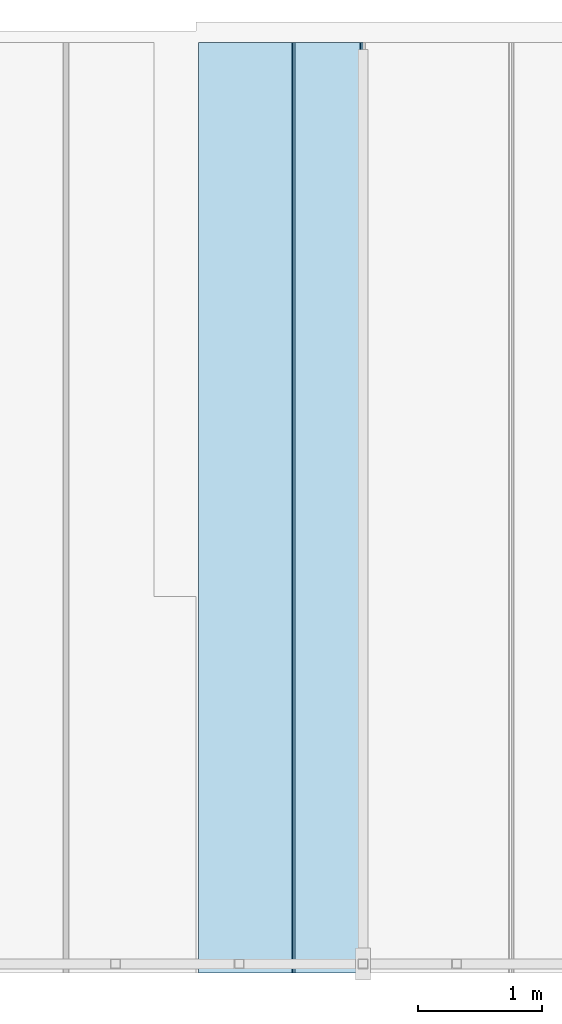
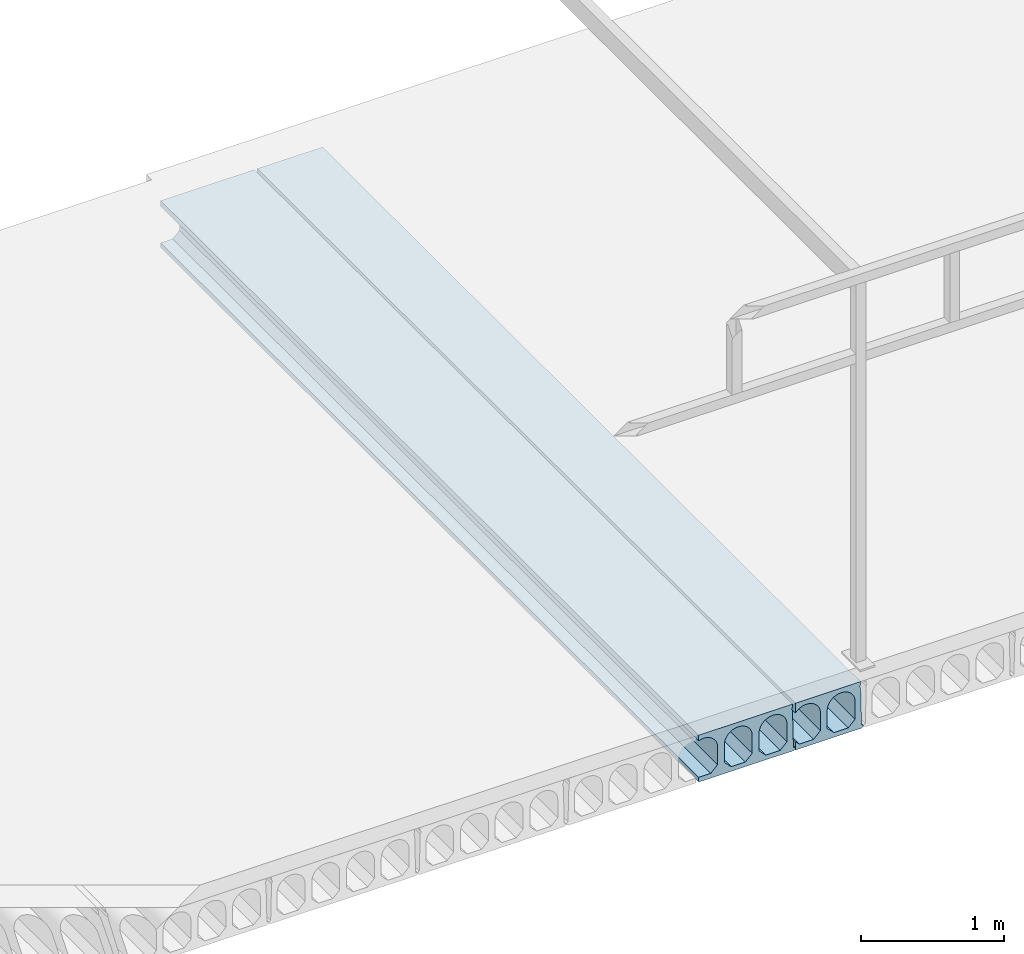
# One storey, part 15 of 20: 2 slabs.
"""IFC2X3 building model written with IfcOpenShell, lengths in millimetres."""

from ifc_helpers import new_model, entity, si_unit, converted_unit, derived_unit, direction, frame, origin_with_axes, place, context, subcontext, project, spatial, faceted_brep, type_object, element, save


model = new_model("IFC2X3")

# Units and contexts
model_context = context("Model", 3, precision=0.01, world=frame((0.0, 4.29681676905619e-09, 0.0)), true_north=direction((4.01073788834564e-13, 1.0)))
plan_context = context("Plan", 3, precision=0.01, world=frame((0.0, 4.29681676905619e-09, 0.0)), true_north=direction((4.01073788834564e-13, 1.0)))
body_context = subcontext(model_context, "Body", "Model", "MODEL_VIEW")
ifc_project = project(units=[converted_unit("PLANEANGLEUNIT", "DEGREE", entity("IfcPositiveLengthMeasure", 0.0174532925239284), si_unit("PLANEANGLEUNIT", "RADIAN"), dimensions=[0, 0, 0, 0, 0, 0, 0]), si_unit("AREAUNIT", "SQUARE_METRE"), si_unit("LENGTHUNIT", "METRE", prefix="MILLI"), si_unit("MASSUNIT", "GRAM", prefix="KILO"), si_unit("POWERUNIT", "WATT"), si_unit("PRESSUREUNIT", "PASCAL", prefix="KILO"), si_unit("FORCEUNIT", "NEWTON", prefix="KILO"), si_unit("ELECTRICVOLTAGEUNIT", "VOLT"), si_unit("ELECTRICCURRENTUNIT", "AMPERE"), si_unit("THERMODYNAMICTEMPERATUREUNIT", "DEGREE_CELSIUS"), si_unit("TIMEUNIT", "SECOND"), si_unit("VOLUMEUNIT", "CUBIC_METRE"), derived_unit("LINEARVELOCITYUNIT", [(si_unit("LENGTHUNIT", "METRE"), 1), (si_unit("TIMEUNIT", "SECOND"), -1)]), derived_unit("VOLUMETRICFLOWRATEUNIT", [(si_unit("VOLUMEUNIT", "CUBIC_METRE"), 1), (si_unit("TIMEUNIT", "SECOND"), -1)]), derived_unit("THERMALTRANSMITTANCEUNIT", [(si_unit("POWERUNIT", "WATT"), 1), (si_unit("THERMODYNAMICTEMPERATUREUNIT", "KELVIN"), -1), (si_unit("AREAUNIT", "SQUARE_METRE"), -1)]), derived_unit("SOUNDPRESSUREUNIT", [(si_unit("PRESSUREUNIT", "PASCAL"), 1)])], contexts=[model_context, plan_context])

# Site, building, storey
site_placement = place(None, frame((0.0, -4.29681676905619e-09, 0.0), z_axis=(0.0, 0.0, 1.0), x_axis=(1.0, 0.0, 0.0)))
site = spatial("IfcSite", under=ifc_project, at=site_placement, Name="Gardermoen", CompositionType="ELEMENT")
building_placement = place(site_placement, frame((0.0, 4.29681676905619e-09, 0.0), z_axis=(0.0, 0.0, 1.0), x_axis=(1.0, 0.0, 0.0)))
building = spatial("IfcBuilding", under=site, at=building_placement, Name="TS", CompositionType="ELEMENT")
storey_placement = place(building_placement, origin_with_axes())
storey = spatial("IfcBuildingStorey", under=building, at=storey_placement, Name="D", CompositionType="ELEMENT", Elevation=0.0)

# Slabs
slab_type = type_object("IfcSlabType", Name="HD400", PredefinedType="NOTDEFINED")
slab_1_placement = place(storey_placement, frame((605849.980234, 405259.995625, 203600.0), z_axis=(0.0, 0.0, 1.0), x_axis=(0.0, -1.0, 0.0)))
element("IfcSlab", 1, at=slab_1_placement, inside=storey, type_object=slab_type, Name="HULLDEKKE", ObjectType="HD400", PredefinedType="FLOOR", context=body_context, shape_type="Brep", body=[
    faceted_brep([(7523.49562487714, -180.003582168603, 152.548532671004), (7523.49562487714, -176.528690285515, 153.904439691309), (0.0, -176.528690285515, 153.904439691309), (0.0, -180.003582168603, 152.548532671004), (7523.49562487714, -167.617117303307, 156.55752991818), (0.0, -167.617117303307, 156.55752991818), (7523.49562487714, -158.516891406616, 158.465646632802), (0.0, -158.516891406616, 158.465646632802), (7523.49562487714, -149.290176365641, 159.615755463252), (0.0, -149.290176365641, 159.615755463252), (7523.49562487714, -140.0, 160.0), (0.0, -140.0, 160.0), (7523.49562487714, -130.709823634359, 159.615755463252), (0.0, -130.709823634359, 159.615755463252), (7523.49562487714, -121.483108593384, 158.465646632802), (0.0, -121.483108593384, 158.465646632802), (7523.49562487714, -112.382882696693, 156.55752991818), (0.0, -112.382882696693, 156.55752991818), (7523.49562487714, -103.471309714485, 153.904439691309), (0.0, -103.471309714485, 153.904439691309), (7523.49562487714, -94.8092647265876, 150.524499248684), (0.0, -94.8092647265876, 150.524499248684), (7523.49562487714, -86.4559182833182, 146.440797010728), (0.0, -86.4559182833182, 146.440797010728), (7523.49562487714, -78.4683322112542, 141.681228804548), (0.0, -78.4683322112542, 141.681228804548), (7523.49562487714, -70.9010698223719, 136.278307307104), (0.0, -70.9010698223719, 136.278307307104), (7523.49562487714, -63.8058231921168, 130.268939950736), (0.0, -63.8058231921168, 130.268939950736), (7523.49562487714, -57.2310600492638, 123.694176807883), (0.0, -57.2310600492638, 123.694176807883), (7523.49562487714, -51.2216926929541, 116.598930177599), (0.0, -51.2216926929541, 116.598930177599), (7523.49562487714, -45.8187711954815, 109.031667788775), (0.0, -45.8187711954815, 109.031667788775), (7523.49562487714, -41.0592029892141, 101.044081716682), (0.0, -41.0592029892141, 101.044081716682), (7523.49562487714, -36.9755007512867, 92.6907352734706), (0.0, -36.9755007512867, 92.6907352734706), (7523.49562487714, -33.5955603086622, 84.028690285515), (0.0, -33.5955603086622, 84.028690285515), (7523.49562487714, -30.942470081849, 75.1171173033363), (0.0, -30.942470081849, 75.1171173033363), (7523.49562487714, -29.0343533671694, 66.0168914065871), (0.0, -29.0343533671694, 66.0168914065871), (7523.49562487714, -27.8842445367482, 56.7901763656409), (0.0, -27.8842445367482, 56.7901763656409), (7523.49562487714, -27.5, 47.5), (0.0, -27.5, 47.5), (7523.49562487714, -27.5, -105.0), (0.0, -27.5, -105.0), (7523.49562487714, -82.5, -160.0), (0.0, -82.5, -160.0), (7523.49562487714, -180.003582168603, -160.0), (0.0, -180.003582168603, -160.0), (7523.49562487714, -180.003582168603, -200.0), (0.0, -180.003582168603, -200.0), (7523.49562487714, 583.380004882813, -200.0), (0.0, 583.380004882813, -200.0), (7523.49562487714, 600.0, -190.0), (0.0, 600.0, -190.0), (7523.49562487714, 600.0, -180.0), (0.0, 600.0, -180.0), (7523.49562487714, 585.0, -170.0), (0.0, 585.0, -170.0), (7523.49562487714, 577.5, 145.0), (0.0, 577.5, 145.0), (7523.49562487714, 570.0, 160.0), (0.0, 570.0, 160.0), (7523.49562487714, 577.5, 175.0), (0.0, 577.5, 175.0), (7523.49562487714, 577.5, 200.0), (0.0, 577.5, 200.0), (7523.49562487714, 82.5, -160.0), (7523.49562487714, 27.5, -105.0), (0.0, 27.5, -105.0), (0.0, 82.5, -160.0), (7523.49562487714, 27.5, 47.5), (0.0, 27.5, 47.5), (7523.49562487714, 27.8842445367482, 56.7901763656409), (0.0, 27.8842445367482, 56.7901763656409), (7523.49562487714, 29.0343533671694, 66.0168914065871), (0.0, 29.0343533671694, 66.0168914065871), (7523.49562487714, 30.942470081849, 75.1171173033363), (0.0, 30.942470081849, 75.1171173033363), (7523.49562487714, 33.5955603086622, 84.028690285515), (0.0, 33.5955603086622, 84.028690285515), (7523.49562487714, 36.9755007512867, 92.6907352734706), (0.0, 36.9755007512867, 92.6907352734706), (7523.49562487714, 41.0592029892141, 101.044081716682), (0.0, 41.0592029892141, 101.044081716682), (7523.49562487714, 45.8187711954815, 109.031667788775), (0.0, 45.8187711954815, 109.031667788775), (7523.49562487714, 51.2216926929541, 116.598930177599), (0.0, 51.2216926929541, 116.598930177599), (7523.49562487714, 57.2310600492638, 123.694176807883), (0.0, 57.2310600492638, 123.694176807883), (7523.49562487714, 63.8058231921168, 130.268939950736), (0.0, 63.8058231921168, 130.268939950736), (7523.49562487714, 70.9010698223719, 136.278307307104), (0.0, 70.9010698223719, 136.278307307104), (7523.49562487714, 78.4683322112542, 141.681228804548), (0.0, 78.4683322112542, 141.681228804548), (7523.49562487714, 86.4559182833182, 146.440797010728), (0.0, 86.4559182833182, 146.440797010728), (7523.49562487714, 94.8092647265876, 150.524499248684), (0.0, 94.8092647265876, 150.524499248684), (7523.49562487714, 103.471309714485, 153.904439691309), (0.0, 103.471309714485, 153.904439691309), (7523.49562487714, 112.382882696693, 156.55752991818), (0.0, 112.382882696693, 156.55752991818), (7523.49562487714, 121.483108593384, 158.465646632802), (0.0, 121.483108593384, 158.465646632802), (7523.49562487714, 130.709823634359, 159.615755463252), (0.0, 130.709823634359, 159.615755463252), (7523.49562487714, 140.0, 160.0), (0.0, 140.0, 160.0), (7523.49562487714, 149.290176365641, 159.615755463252), (0.0, 149.290176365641, 159.615755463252), (7523.49562487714, 158.516891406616, 158.465646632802), (0.0, 158.516891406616, 158.465646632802), (7523.49562487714, 167.617117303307, 156.55752991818), (0.0, 167.617117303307, 156.55752991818), (7523.49562487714, 176.528690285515, 153.904439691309), (0.0, 176.528690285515, 153.904439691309), (7523.49562487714, 185.190735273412, 150.524499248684), (0.0, 185.190735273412, 150.524499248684), (7523.49562487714, 193.544081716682, 146.440797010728), (0.0, 193.544081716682, 146.440797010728), (7523.49562487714, 201.531667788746, 141.681228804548), (0.0, 201.531667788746, 141.681228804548), (7523.49562487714, 209.098930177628, 136.278307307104), (0.0, 209.098930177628, 136.278307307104), (7523.49562487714, 216.194176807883, 130.268939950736), (0.0, 216.194176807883, 130.268939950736), (7523.49562487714, 222.768939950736, 123.694176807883), (0.0, 222.768939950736, 123.694176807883), (7523.49562487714, 228.778307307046, 116.598930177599), (0.0, 228.778307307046, 116.598930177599), (7523.49562487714, 234.181228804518, 109.031667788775), (0.0, 234.181228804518, 109.031667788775), (7523.49562487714, 238.940797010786, 101.044081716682), (0.0, 238.940797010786, 101.044081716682), (7523.49562487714, 243.024499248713, 92.6907352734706), (0.0, 243.024499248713, 92.6907352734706), (7523.49562487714, 246.404439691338, 84.028690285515), (0.0, 246.404439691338, 84.028690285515), (7523.49562487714, 249.057529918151, 75.1171173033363), (0.0, 249.057529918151, 75.1171173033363), (7523.49562487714, 250.965646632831, 66.0168914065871), (0.0, 250.965646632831, 66.0168914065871), (7523.49562487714, 252.115755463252, 56.7901763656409), (0.0, 252.115755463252, 56.7901763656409), (7523.49562487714, 252.5, 47.5), (0.0, 252.5, 47.5), (7523.49562487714, 252.5, -105.0), (0.0, 252.5, -105.0), (7523.49562487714, 197.5, -160.0), (0.0, 197.5, -160.0), (7523.49562487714, 532.5, -105.0), (7523.49562487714, 477.5, -160.0), (0.0, 477.5, -160.0), (0.0, 532.5, -105.0), (7523.49562487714, 532.5, 47.5), (0.0, 532.5, 47.5), (7523.49562487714, 532.115755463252, 56.7901763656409), (0.0, 532.115755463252, 56.7901763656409), (7523.49562487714, 530.965646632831, 66.0168914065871), (0.0, 530.965646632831, 66.0168914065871), (7523.49562487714, 529.057529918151, 75.1171173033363), (0.0, 529.057529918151, 75.1171173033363), (7523.49562487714, 526.404439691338, 84.028690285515), (0.0, 526.404439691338, 84.028690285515), (7523.49562487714, 523.024499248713, 92.6907352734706), (0.0, 523.024499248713, 92.6907352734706), (7523.49562487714, 518.940797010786, 101.044081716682), (0.0, 518.940797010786, 101.044081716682), (7523.49562487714, 514.181228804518, 109.031667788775), (0.0, 514.181228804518, 109.031667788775), (7523.49562487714, 508.778307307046, 116.598930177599), (0.0, 508.778307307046, 116.598930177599), (7523.49562487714, 502.768939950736, 123.694176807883), (0.0, 502.768939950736, 123.694176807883), (7523.49562487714, 496.194176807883, 130.268939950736), (0.0, 496.194176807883, 130.268939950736), (7523.49562487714, 489.098930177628, 136.278307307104), (0.0, 489.098930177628, 136.278307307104), (7523.49562487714, 481.531667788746, 141.681228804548), (0.0, 481.531667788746, 141.681228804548), (7523.49562487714, 473.544081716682, 146.440797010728), (0.0, 473.544081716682, 146.440797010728), (7523.49562487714, 465.190735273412, 150.524499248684), (0.0, 465.190735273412, 150.524499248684), (7523.49562487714, 456.528690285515, 153.904439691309), (0.0, 456.528690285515, 153.904439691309), (7523.49562487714, 447.617117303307, 156.55752991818), (0.0, 447.617117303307, 156.55752991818), (7523.49562487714, 438.516891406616, 158.465646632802), (0.0, 438.516891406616, 158.465646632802), (7523.49562487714, 429.290176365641, 159.615755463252), (0.0, 429.290176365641, 159.615755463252), (7523.49562487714, 420.0, 160.0), (0.0, 420.0, 160.0), (7523.49562487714, 410.709823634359, 159.615755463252), (0.0, 410.709823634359, 159.615755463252), (7523.49562487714, 401.483108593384, 158.465646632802), (0.0, 401.483108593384, 158.465646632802), (7523.49562487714, 392.382882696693, 156.55752991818), (0.0, 392.382882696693, 156.55752991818), (7523.49562487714, 383.471309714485, 153.904439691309), (0.0, 383.471309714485, 153.904439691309), (7523.49562487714, 374.809264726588, 150.524499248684), (0.0, 374.809264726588, 150.524499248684), (7523.49562487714, 366.455918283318, 146.440797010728), (0.0, 366.455918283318, 146.440797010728), (7523.49562487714, 358.468332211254, 141.681228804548), (0.0, 358.468332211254, 141.681228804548), (7523.49562487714, 350.901069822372, 136.278307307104), (0.0, 350.901069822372, 136.278307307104), (7523.49562487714, 343.805823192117, 130.268939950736), (0.0, 343.805823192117, 130.268939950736), (7523.49562487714, 337.231060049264, 123.694176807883), (0.0, 337.231060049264, 123.694176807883), (7523.49562487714, 331.221692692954, 116.598930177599), (0.0, 331.221692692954, 116.598930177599), (7523.49562487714, 325.818771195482, 109.031667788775), (0.0, 325.818771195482, 109.031667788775), (7523.49562487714, 321.059202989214, 101.044081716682), (0.0, 321.059202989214, 101.044081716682), (7523.49562487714, 316.975500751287, 92.6907352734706), (0.0, 316.975500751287, 92.6907352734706), (7523.49562487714, 313.595560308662, 84.028690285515), (0.0, 313.595560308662, 84.028690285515), (7523.49562487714, 310.942470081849, 75.1171173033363), (0.0, 310.942470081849, 75.1171173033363), (7523.49562487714, 309.034353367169, 66.0168914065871), (0.0, 309.034353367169, 66.0168914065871), (7523.49562487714, 307.884244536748, 56.7901763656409), (0.0, 307.884244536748, 56.7901763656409), (7523.49562487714, 307.5, 47.5), (0.0, 307.5, 47.5), (7523.49562487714, 307.5, -105.0), (0.0, 307.5, -105.0), (7523.49562487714, 362.5, -160.0), (0.0, 362.5, -160.0), (0.0, -180.003582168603, 200.0), (7523.49562487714, -180.003582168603, 200.0)], [[[0, 1, 2, 3]], [[1, 4, 5, 2]], [[4, 6, 7, 5]], [[6, 8, 9, 7]], [[8, 10, 11, 9]], [[10, 12, 13, 11]], [[12, 14, 15, 13]], [[14, 16, 17, 15]], [[16, 18, 19, 17]], [[18, 20, 21, 19]], [[20, 22, 23, 21]], [[22, 24, 25, 23]], [[24, 26, 27, 25]], [[26, 28, 29, 27]], [[28, 30, 31, 29]], [[30, 32, 33, 31]], [[32, 34, 35, 33]], [[34, 36, 37, 35]], [[36, 38, 39, 37]], [[38, 40, 41, 39]], [[40, 42, 43, 41]], [[42, 44, 45, 43]], [[44, 46, 47, 45]], [[46, 48, 49, 47]], [[48, 50, 51, 49]], [[50, 52, 53, 51]], [[52, 54, 55, 53]], [[54, 56, 57, 55]], [[56, 58, 59, 57]], [[58, 60, 61, 59]], [[60, 62, 63, 61]], [[62, 64, 65, 63]], [[64, 66, 67, 65]], [[66, 68, 69, 67]], [[68, 70, 71, 69]], [[70, 72, 73, 71]], [[74, 75, 76, 77]], [[75, 78, 79, 76]], [[78, 80, 81, 79]], [[80, 82, 83, 81]], [[82, 84, 85, 83]], [[84, 86, 87, 85]], [[86, 88, 89, 87]], [[88, 90, 91, 89]], [[90, 92, 93, 91]], [[92, 94, 95, 93]], [[94, 96, 97, 95]], [[96, 98, 99, 97]], [[98, 100, 101, 99]], [[100, 102, 103, 101]], [[102, 104, 105, 103]], [[104, 106, 107, 105]], [[106, 108, 109, 107]], [[108, 110, 111, 109]], [[110, 112, 113, 111]], [[112, 114, 115, 113]], [[114, 116, 117, 115]], [[116, 118, 119, 117]], [[118, 120, 121, 119]], [[120, 122, 123, 121]], [[122, 124, 125, 123]], [[124, 126, 127, 125]], [[126, 128, 129, 127]], [[128, 130, 131, 129]], [[130, 132, 133, 131]], [[132, 134, 135, 133]], [[134, 136, 137, 135]], [[136, 138, 139, 137]], [[138, 140, 141, 139]], [[140, 142, 143, 141]], [[142, 144, 145, 143]], [[144, 146, 147, 145]], [[146, 148, 149, 147]], [[148, 150, 151, 149]], [[150, 152, 153, 151]], [[152, 154, 155, 153]], [[154, 156, 157, 155]], [[156, 158, 159, 157]], [[160, 161, 162, 163]], [[164, 160, 163, 165]], [[166, 164, 165, 167]], [[168, 166, 167, 169]], [[170, 168, 169, 171]], [[172, 170, 171, 173]], [[174, 172, 173, 175]], [[176, 174, 175, 177]], [[178, 176, 177, 179]], [[180, 178, 179, 181]], [[182, 180, 181, 183]], [[184, 182, 183, 185]], [[186, 184, 185, 187]], [[188, 186, 187, 189]], [[190, 188, 189, 191]], [[192, 190, 191, 193]], [[194, 192, 193, 195]], [[196, 194, 195, 197]], [[198, 196, 197, 199]], [[200, 198, 199, 201]], [[202, 200, 201, 203]], [[204, 202, 203, 205]], [[206, 204, 205, 207]], [[208, 206, 207, 209]], [[210, 208, 209, 211]], [[212, 210, 211, 213]], [[214, 212, 213, 215]], [[216, 214, 215, 217]], [[218, 216, 217, 219]], [[220, 218, 219, 221]], [[222, 220, 221, 223]], [[224, 222, 223, 225]], [[226, 224, 225, 227]], [[228, 226, 227, 229]], [[230, 228, 229, 231]], [[232, 230, 231, 233]], [[234, 232, 233, 235]], [[236, 234, 235, 237]], [[238, 236, 237, 239]], [[240, 238, 239, 241]], [[242, 240, 241, 243]], [[244, 242, 243, 245]], [[161, 244, 245, 162]], [[158, 74, 77, 159]], [[246, 3, 2, 5, 7, 9, 11, 13, 15, 17, 19, 21, 23, 25, 27, 29, 31, 33, 35, 37, 39, 41, 43, 45, 47, 49, 51, 53, 55, 57, 59, 61, 63, 65, 67, 69, 71, 73], [159, 77, 76, 79, 81, 83, 85, 87, 89, 91, 93, 95, 97, 99, 101, 103, 105, 107, 109, 111, 113, 115, 117, 119, 121, 123, 125, 127, 129, 131, 133, 135, 137, 139, 141, 143, 145, 147, 149, 151, 153, 155, 157], [162, 245, 243, 241, 239, 237, 235, 233, 231, 229, 227, 225, 223, 221, 219, 217, 215, 213, 211, 209, 207, 205, 203, 201, 199, 197, 195, 193, 191, 189, 187, 185, 183, 181, 179, 177, 175, 173, 171, 169, 167, 165, 163]], [[72, 247, 246, 73]], [[247, 0, 3, 246]], [[247, 72, 70, 68, 66, 64, 62, 60, 58, 56, 54, 52, 50, 48, 46, 44, 42, 40, 38, 36, 34, 32, 30, 28, 26, 24, 22, 20, 18, 16, 14, 12, 10, 8, 6, 4, 1, 0], [158, 156, 154, 152, 150, 148, 146, 144, 142, 140, 138, 136, 134, 132, 130, 128, 126, 124, 122, 120, 118, 116, 114, 112, 110, 108, 106, 104, 102, 100, 98, 96, 94, 92, 90, 88, 86, 84, 82, 80, 78, 75, 74], [164, 166, 168, 170, 172, 174, 176, 178, 180, 182, 184, 186, 188, 190, 192, 194, 196, 198, 200, 202, 204, 206, 208, 210, 212, 214, 216, 218, 220, 222, 224, 226, 228, 230, 232, 234, 236, 238, 240, 242, 244, 161, 160]]], orient=[[False], [False], [False], [False], [False], [False], [False], [False], [False], [False], [False], [False], [False], [False], [False], [False], [False], [False], [False], [False], [False], [False], [False], [False], [False], [False], [False], [False], [False], [False], [False], [False], [False], [False], [False], [False], [False], [False], [False], [False], [False], [False], [False], [False], [False], [False], [False], [False], [False], [False], [False], [False], [False], [False], [False], [False], [False], [False], [False], [False], [False], [False], [False], [False], [False], [False], [False], [False], [False], [False], [False], [False], [False], [False], [False], [False], [False], [False], [False], [False], [False], [False], [False], [False], [False], [False], [False], [False], [False], [False], [False], [False], [False], [False], [False], [False], [False], [False], [False], [False], [False], [False], [False], [False], [False], [False], [False], [False], [False], [False], [False], [False], [False], [False], [False], [False], [False], [False], [False], [False], [False], [False], [False, False, False], [False], [False], [False, False, False]]),
])
slab_2_placement = place(storey_placement, frame((606400.000234, 405259.995625, 203600.0), z_axis=(0.0, 0.0, 1.0), x_axis=(0.0, -1.0, 0.0)))
element("IfcSlab", 2, at=slab_2_placement, inside=storey, type_object=slab_type, Name="HULLDEKKE", ObjectType="HD400", PredefinedType="FLOOR", context=body_context, shape_type="Brep", body=[
    faceted_brep([(7523.49562487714, 49.9964178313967, 114.882825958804), (7523.49562487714, 51.2216926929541, 116.598930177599), (0.0, 51.2216926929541, 116.598930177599), (0.0, 49.9964178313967, 114.882825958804), (7523.49562487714, 57.2310600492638, 123.694176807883), (0.0, 57.2310600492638, 123.694176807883), (7523.49562487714, 63.8058231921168, 130.268939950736), (0.0, 63.8058231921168, 130.268939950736), (7523.49562487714, 70.9010698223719, 136.278307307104), (0.0, 70.9010698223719, 136.278307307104), (7523.49562487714, 78.4683322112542, 141.681228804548), (0.0, 78.4683322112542, 141.681228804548), (7523.49562487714, 86.4559182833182, 146.440797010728), (0.0, 86.4559182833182, 146.440797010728), (7523.49562487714, 94.8092647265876, 150.524499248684), (0.0, 94.8092647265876, 150.524499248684), (7523.49562487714, 103.471309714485, 153.904439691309), (0.0, 103.471309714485, 153.904439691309), (7523.49562487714, 112.382882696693, 156.55752991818), (0.0, 112.382882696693, 156.55752991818), (7523.49562487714, 121.483108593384, 158.465646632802), (0.0, 121.483108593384, 158.465646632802), (7523.49562487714, 130.709823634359, 159.615755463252), (0.0, 130.709823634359, 159.615755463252), (7523.49562487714, 140.0, 160.0), (0.0, 140.0, 160.0), (7523.49562487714, 149.290176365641, 159.615755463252), (0.0, 149.290176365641, 159.615755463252), (7523.49562487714, 158.516891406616, 158.465646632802), (0.0, 158.516891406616, 158.465646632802), (7523.49562487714, 167.617117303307, 156.55752991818), (0.0, 167.617117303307, 156.55752991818), (7523.49562487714, 176.528690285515, 153.904439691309), (0.0, 176.528690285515, 153.904439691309), (7523.49562487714, 185.190735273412, 150.524499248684), (0.0, 185.190735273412, 150.524499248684), (7523.49562487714, 193.544081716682, 146.440797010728), (0.0, 193.544081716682, 146.440797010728), (7523.49562487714, 201.531667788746, 141.681228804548), (0.0, 201.531667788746, 141.681228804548), (7523.49562487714, 209.098930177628, 136.278307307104), (0.0, 209.098930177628, 136.278307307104), (7523.49562487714, 216.194176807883, 130.268939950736), (0.0, 216.194176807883, 130.268939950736), (7523.49562487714, 222.768939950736, 123.694176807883), (0.0, 222.768939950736, 123.694176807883), (7523.49562487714, 228.778307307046, 116.598930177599), (0.0, 228.778307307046, 116.598930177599), (7523.49562487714, 234.181228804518, 109.031667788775), (0.0, 234.181228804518, 109.031667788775), (7523.49562487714, 238.940797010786, 101.044081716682), (0.0, 238.940797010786, 101.044081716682), (7523.49562487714, 243.024499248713, 92.6907352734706), (0.0, 243.024499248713, 92.6907352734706), (7523.49562487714, 246.404439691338, 84.028690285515), (0.0, 246.404439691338, 84.028690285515), (7523.49562487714, 249.057529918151, 75.1171173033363), (0.0, 249.057529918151, 75.1171173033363), (7523.49562487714, 250.965646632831, 66.0168914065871), (0.0, 250.965646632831, 66.0168914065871), (7523.49562487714, 252.115755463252, 56.7901763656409), (0.0, 252.115755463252, 56.7901763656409), (7523.49562487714, 252.5, 47.5), (0.0, 252.5, 47.5), (7523.49562487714, 252.5, -105.0), (0.0, 252.5, -105.0), (7523.49562487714, 197.5, -160.0), (0.0, 197.5, -160.0), (7523.49562487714, 82.5, -160.0), (0.0, 82.5, -160.0), (7523.49562487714, 49.9964178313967, -127.496417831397), (0.0, 49.9964178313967, -127.496417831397), (7523.49562487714, 49.9964178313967, -200.0), (0.0, 49.9964178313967, -200.0), (7523.49562487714, 583.380004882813, -200.0), (0.0, 583.380004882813, -200.0), (7523.49562487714, 600.0, -190.0), (0.0, 600.0, -190.0), (7523.49562487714, 600.0, -180.0), (0.0, 600.0, -180.0), (7523.49562487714, 585.0, -170.0), (0.0, 585.0, -170.0), (7523.49562487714, 577.5, 145.0), (0.0, 577.5, 145.0), (7523.49562487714, 570.0, 160.0), (0.0, 570.0, 160.0), (7523.49562487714, 577.5, 175.0), (0.0, 577.5, 175.0), (7523.49562487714, 577.5, 200.0), (0.0, 577.5, 200.0), (7523.49562487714, 362.5, -160.0), (7523.49562487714, 307.5, -105.0), (0.0, 307.5, -105.0), (0.0, 362.5, -160.0), (7523.49562487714, 307.5, 47.5), (0.0, 307.5, 47.5), (7523.49562487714, 307.884244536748, 56.7901763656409), (0.0, 307.884244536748, 56.7901763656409), (7523.49562487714, 309.034353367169, 66.0168914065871), (0.0, 309.034353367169, 66.0168914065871), (7523.49562487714, 310.942470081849, 75.1171173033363), (0.0, 310.942470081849, 75.1171173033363), (7523.49562487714, 313.595560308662, 84.028690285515), (0.0, 313.595560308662, 84.028690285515), (7523.49562487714, 316.975500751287, 92.6907352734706), (0.0, 316.975500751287, 92.6907352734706), (7523.49562487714, 321.059202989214, 101.044081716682), (0.0, 321.059202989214, 101.044081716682), (7523.49562487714, 325.818771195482, 109.031667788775), (0.0, 325.818771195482, 109.031667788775), (7523.49562487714, 331.221692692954, 116.598930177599), (0.0, 331.221692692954, 116.598930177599), (7523.49562487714, 337.231060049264, 123.694176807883), (0.0, 337.231060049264, 123.694176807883), (7523.49562487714, 343.805823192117, 130.268939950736), (0.0, 343.805823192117, 130.268939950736), (7523.49562487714, 350.901069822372, 136.278307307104), (0.0, 350.901069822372, 136.278307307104), (7523.49562487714, 358.468332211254, 141.681228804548), (0.0, 358.468332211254, 141.681228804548), (7523.49562487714, 366.455918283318, 146.440797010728), (0.0, 366.455918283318, 146.440797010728), (7523.49562487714, 374.809264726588, 150.524499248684), (0.0, 374.809264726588, 150.524499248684), (7523.49562487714, 383.471309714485, 153.904439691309), (0.0, 383.471309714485, 153.904439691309), (7523.49562487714, 392.382882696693, 156.55752991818), (0.0, 392.382882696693, 156.55752991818), (7523.49562487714, 401.483108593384, 158.465646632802), (0.0, 401.483108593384, 158.465646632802), (7523.49562487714, 410.709823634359, 159.615755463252), (0.0, 410.709823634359, 159.615755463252), (7523.49562487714, 420.0, 160.0), (0.0, 420.0, 160.0), (7523.49562487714, 429.290176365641, 159.615755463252), (0.0, 429.290176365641, 159.615755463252), (7523.49562487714, 438.516891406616, 158.465646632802), (0.0, 438.516891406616, 158.465646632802), (7523.49562487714, 447.617117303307, 156.55752991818), (0.0, 447.617117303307, 156.55752991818), (7523.49562487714, 456.528690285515, 153.904439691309), (0.0, 456.528690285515, 153.904439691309), (7523.49562487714, 465.190735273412, 150.524499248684), (0.0, 465.190735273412, 150.524499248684), (7523.49562487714, 473.544081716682, 146.440797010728), (0.0, 473.544081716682, 146.440797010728), (7523.49562487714, 481.531667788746, 141.681228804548), (0.0, 481.531667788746, 141.681228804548), (7523.49562487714, 489.098930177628, 136.278307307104), (0.0, 489.098930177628, 136.278307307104), (7523.49562487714, 496.194176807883, 130.268939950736), (0.0, 496.194176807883, 130.268939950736), (7523.49562487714, 502.768939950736, 123.694176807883), (0.0, 502.768939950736, 123.694176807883), (7523.49562487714, 508.778307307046, 116.598930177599), (0.0, 508.778307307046, 116.598930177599), (7523.49562487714, 514.181228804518, 109.031667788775), (0.0, 514.181228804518, 109.031667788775), (7523.49562487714, 518.940797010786, 101.044081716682), (0.0, 518.940797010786, 101.044081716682), (7523.49562487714, 523.024499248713, 92.6907352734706), (0.0, 523.024499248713, 92.6907352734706), (7523.49562487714, 526.404439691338, 84.028690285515), (0.0, 526.404439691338, 84.028690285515), (7523.49562487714, 529.057529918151, 75.1171173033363), (0.0, 529.057529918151, 75.1171173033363), (7523.49562487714, 530.965646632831, 66.0168914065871), (0.0, 530.965646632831, 66.0168914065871), (7523.49562487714, 532.115755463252, 56.7901763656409), (0.0, 532.115755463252, 56.7901763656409), (7523.49562487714, 532.5, 47.5), (0.0, 532.5, 47.5), (7523.49562487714, 532.5, -105.0), (0.0, 532.5, -105.0), (7523.49562487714, 477.5, -160.0), (0.0, 477.5, -160.0), (0.0, 49.9964178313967, 200.0), (7523.49562487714, 49.9964178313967, 200.0)], [[[0, 1, 2, 3]], [[1, 4, 5, 2]], [[4, 6, 7, 5]], [[6, 8, 9, 7]], [[8, 10, 11, 9]], [[10, 12, 13, 11]], [[12, 14, 15, 13]], [[14, 16, 17, 15]], [[16, 18, 19, 17]], [[18, 20, 21, 19]], [[20, 22, 23, 21]], [[22, 24, 25, 23]], [[24, 26, 27, 25]], [[26, 28, 29, 27]], [[28, 30, 31, 29]], [[30, 32, 33, 31]], [[32, 34, 35, 33]], [[34, 36, 37, 35]], [[36, 38, 39, 37]], [[38, 40, 41, 39]], [[40, 42, 43, 41]], [[42, 44, 45, 43]], [[44, 46, 47, 45]], [[46, 48, 49, 47]], [[48, 50, 51, 49]], [[50, 52, 53, 51]], [[52, 54, 55, 53]], [[54, 56, 57, 55]], [[56, 58, 59, 57]], [[58, 60, 61, 59]], [[60, 62, 63, 61]], [[62, 64, 65, 63]], [[64, 66, 67, 65]], [[66, 68, 69, 67]], [[68, 70, 71, 69]], [[70, 72, 73, 71]], [[72, 74, 75, 73]], [[74, 76, 77, 75]], [[76, 78, 79, 77]], [[78, 80, 81, 79]], [[80, 82, 83, 81]], [[82, 84, 85, 83]], [[84, 86, 87, 85]], [[86, 88, 89, 87]], [[90, 91, 92, 93]], [[91, 94, 95, 92]], [[94, 96, 97, 95]], [[96, 98, 99, 97]], [[98, 100, 101, 99]], [[100, 102, 103, 101]], [[102, 104, 105, 103]], [[104, 106, 107, 105]], [[106, 108, 109, 107]], [[108, 110, 111, 109]], [[110, 112, 113, 111]], [[112, 114, 115, 113]], [[114, 116, 117, 115]], [[116, 118, 119, 117]], [[118, 120, 121, 119]], [[120, 122, 123, 121]], [[122, 124, 125, 123]], [[124, 126, 127, 125]], [[126, 128, 129, 127]], [[128, 130, 131, 129]], [[130, 132, 133, 131]], [[132, 134, 135, 133]], [[134, 136, 137, 135]], [[136, 138, 139, 137]], [[138, 140, 141, 139]], [[140, 142, 143, 141]], [[142, 144, 145, 143]], [[144, 146, 147, 145]], [[146, 148, 149, 147]], [[148, 150, 151, 149]], [[150, 152, 153, 151]], [[152, 154, 155, 153]], [[154, 156, 157, 155]], [[156, 158, 159, 157]], [[158, 160, 161, 159]], [[160, 162, 163, 161]], [[162, 164, 165, 163]], [[164, 166, 167, 165]], [[166, 168, 169, 167]], [[168, 170, 171, 169]], [[170, 172, 173, 171]], [[172, 174, 175, 173]], [[174, 90, 93, 175]], [[176, 3, 2, 5, 7, 9, 11, 13, 15, 17, 19, 21, 23, 25, 27, 29, 31, 33, 35, 37, 39, 41, 43, 45, 47, 49, 51, 53, 55, 57, 59, 61, 63, 65, 67, 69, 71, 73, 75, 77, 79, 81, 83, 85, 87, 89], [175, 93, 92, 95, 97, 99, 101, 103, 105, 107, 109, 111, 113, 115, 117, 119, 121, 123, 125, 127, 129, 131, 133, 135, 137, 139, 141, 143, 145, 147, 149, 151, 153, 155, 157, 159, 161, 163, 165, 167, 169, 171, 173]], [[88, 177, 176, 89]], [[177, 0, 3, 176]], [[177, 88, 86, 84, 82, 80, 78, 76, 74, 72, 70, 68, 66, 64, 62, 60, 58, 56, 54, 52, 50, 48, 46, 44, 42, 40, 38, 36, 34, 32, 30, 28, 26, 24, 22, 20, 18, 16, 14, 12, 10, 8, 6, 4, 1, 0], [174, 172, 170, 168, 166, 164, 162, 160, 158, 156, 154, 152, 150, 148, 146, 144, 142, 140, 138, 136, 134, 132, 130, 128, 126, 124, 122, 120, 118, 116, 114, 112, 110, 108, 106, 104, 102, 100, 98, 96, 94, 91, 90]]], orient=[[False], [False], [False], [False], [False], [False], [False], [False], [False], [False], [False], [False], [False], [False], [False], [False], [False], [False], [False], [False], [False], [False], [False], [False], [False], [False], [False], [False], [False], [False], [False], [False], [False], [False], [False], [False], [False], [False], [False], [False], [False], [False], [False], [False], [False], [False], [False], [False], [False], [False], [False], [False], [False], [False], [False], [False], [False], [False], [False], [False], [False], [False], [False], [False], [False], [False], [False], [False], [False], [False], [False], [False], [False], [False], [False], [False], [False], [False], [False], [False], [False], [False], [False], [False], [False], [False], [False], [False, False], [False], [False], [False, False]]),
])

save(model, "model.ifc")
